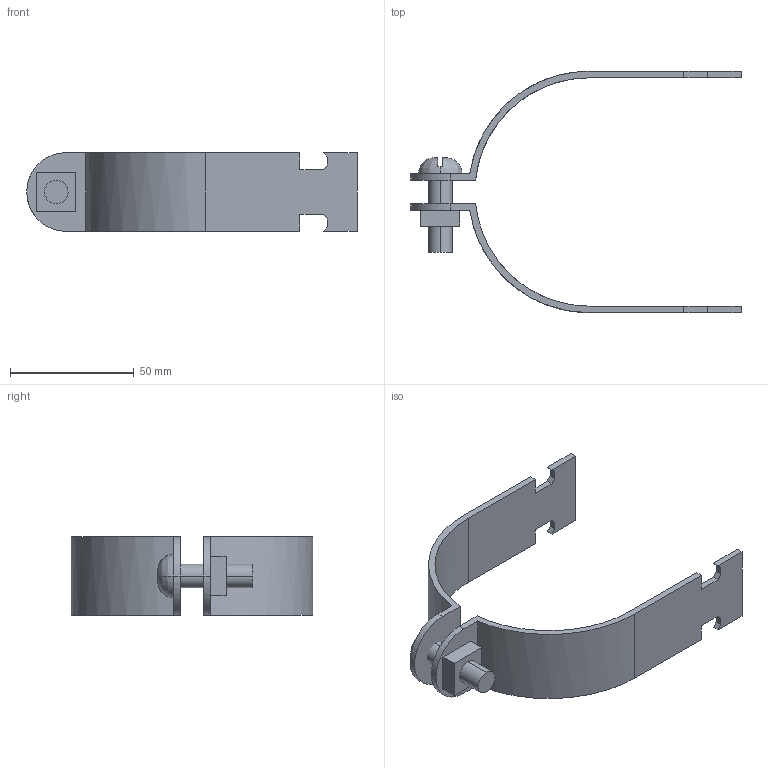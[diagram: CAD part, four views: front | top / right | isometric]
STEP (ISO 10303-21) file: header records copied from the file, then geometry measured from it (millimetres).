
FILE_DESCRIPTION(('TurboCAD Mac Pro'),'Build 980');
FILE_NAME('P2051.stp',' ',(''),(''),'ACIS Interop','IMSI','TurboCAD Mac Pro BY IMSI, INCORPORATED');
FILE_SCHEMA(('automotive_design'));
Length unit declared in the file: inch
Products named in the file (5): 1; 2; 3; 4; 5
Bounding box: 133.35 x 97.46 x 31.74 mm (x, y, z)
Volume: 29286.9 mm3; surface area: 23355.5 mm2
Topology: 4 solids, 4 shells, 71 faces, 186 edges, 124 vertices
Faces by surface type: plane 51, bspline 20
Entity records: 3439 total; most frequent: CARTESIAN_POINT 1038, ORIENTED_EDGE 372, DIRECTION 258, EDGE_CURVE 186, LINE 138, VECTOR 138, VERTEX_POINT 124, STYLED_ITEM 87
